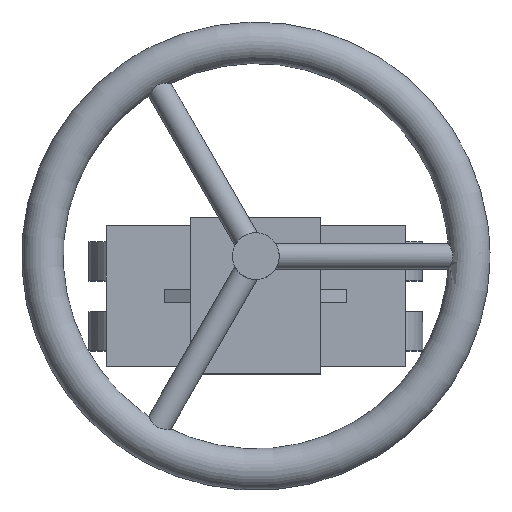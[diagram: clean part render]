
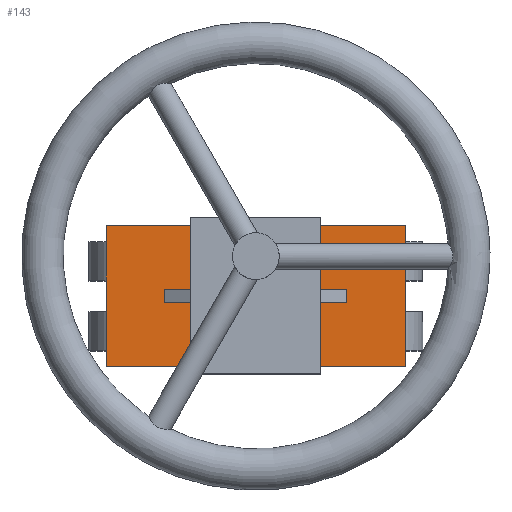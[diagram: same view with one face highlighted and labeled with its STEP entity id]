
A CAD part, top view. The second image highlights one B-rep face of the part: STEP entity #143.
In plain terms, the highlighted planar face has unit normal (0, 0, 1).
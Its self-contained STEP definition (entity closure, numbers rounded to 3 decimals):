
#143=ADVANCED_FACE('',(#1040,#1042,#1044),#1046,.T.);
#1040=FACE_BOUND('',#1041,.T.);
#1041=EDGE_LOOP('',(#1817,#1818,#1819,#1820,#1821,#1822,#1823,#1824));
#1042=FACE_BOUND('',#1043,.T.);
#1043=EDGE_LOOP('',(#1825,#1826,#1827,#1828));
#1044=FACE_BOUND('',#1045,.T.);
#1045=EDGE_LOOP('',(#1829));
#1046=PLANE('',#1047);
#1047=AXIS2_PLACEMENT_3D('',#1048,#1049,#1050);
#1048=CARTESIAN_POINT('',(0.,0.,90.));
#1049=DIRECTION('',(0.,0.,1.));
#1050=DIRECTION('',(1.,0.,0.));
#1817=ORIENTED_EDGE('',*,*,#2295,.F.);
#1818=ORIENTED_EDGE('',*,*,#2296,.T.);
#1819=ORIENTED_EDGE('',*,*,#2297,.T.);
#1820=ORIENTED_EDGE('',*,*,#2298,.T.);
#1821=ORIENTED_EDGE('',*,*,#2299,.F.);
#1822=ORIENTED_EDGE('',*,*,#2300,.T.);
#1823=ORIENTED_EDGE('',*,*,#2301,.T.);
#1824=ORIENTED_EDGE('',*,*,#2302,.T.);
#1825=ORIENTED_EDGE('',*,*,#2303,.F.);
#1826=ORIENTED_EDGE('',*,*,#2285,.F.);
#1827=ORIENTED_EDGE('',*,*,#2304,.F.);
#1828=ORIENTED_EDGE('',*,*,#2261,.F.);
#1829=ORIENTED_EDGE('',*,*,#2278,.F.);
#2261=EDGE_CURVE('',#2510,#2512,#2513,.T.);
#2278=EDGE_CURVE('',#2543,#2543,#2544,.F.);
#2285=EDGE_CURVE('',#2554,#2556,#2557,.F.);
#2295=EDGE_CURVE('',#2571,#2572,#2573,.T.);
#2296=EDGE_CURVE('',#2571,#2574,#2575,.T.);
#2297=EDGE_CURVE('',#2574,#2576,#2577,.T.);
#2298=EDGE_CURVE('',#2576,#2578,#2579,.T.);
#2299=EDGE_CURVE('',#2580,#2578,#2581,.T.);
#2300=EDGE_CURVE('',#2580,#2582,#2583,.T.);
#2301=EDGE_CURVE('',#2582,#2584,#2585,.T.);
#2302=EDGE_CURVE('',#2584,#2572,#2586,.T.);
#2303=EDGE_CURVE('',#2556,#2510,#2587,.T.);
#2304=EDGE_CURVE('',#2512,#2554,#2588,.T.);
#2510=VERTEX_POINT('',#2936);
#2512=VERTEX_POINT('',#2940);
#2513=LINE('',#2941,#2942);
#2543=VERTEX_POINT('',#3008);
#2544=CIRCLE('',#3009,9.);
#2554=VERTEX_POINT('',#3032);
#2556=VERTEX_POINT('',#3036);
#2557=LINE('',#3037,#3038);
#2571=VERTEX_POINT('',#3071);
#2572=VERTEX_POINT('',#3072);
#2573=LINE('',#3073,#3074);
#2574=VERTEX_POINT('',#3076);
#2575=LINE('',#3077,#3078);
#2576=VERTEX_POINT('',#3080);
#2577=LINE('',#3081,#3082);
#2578=VERTEX_POINT('',#3084);
#2579=LINE('',#3085,#3086);
#2580=VERTEX_POINT('',#3088);
#2581=LINE('',#3089,#3090);
#2582=VERTEX_POINT('',#3092);
#2583=LINE('',#3093,#3094);
#2584=VERTEX_POINT('',#3096);
#2585=LINE('',#3097,#3098);
#2586=LINE('',#3100,#3101);
#2587=LINE('',#3103,#3104);
#2588=LINE('',#3106,#3107);
#2936=CARTESIAN_POINT('',(-35.,-2.5,90.));
#2940=CARTESIAN_POINT('',(35.,-2.5,90.));
#2941=CARTESIAN_POINT('',(-35.,-2.5,90.));
#2942=VECTOR('',#2943,1.);
#2943=DIRECTION('',(1.,0.,0.));
#3008=CARTESIAN_POINT('',(0.,24.,90.));
#3009=AXIS2_PLACEMENT_3D('',#3010,#3011,#3012);
#3010=CARTESIAN_POINT('',(0.,15.,90.));
#3011=DIRECTION('',(-0.,-0.,-1.));
#3012=DIRECTION('',(0.,1.,0.));
#3032=CARTESIAN_POINT('',(35.,2.5,90.));
#3036=CARTESIAN_POINT('',(-35.,2.5,90.));
#3037=CARTESIAN_POINT('',(-35.,2.5,90.));
#3038=VECTOR('',#3039,1.);
#3039=DIRECTION('',(1.,0.,0.));
#3071=CARTESIAN_POINT('',(25.,-27.,90.));
#3072=CARTESIAN_POINT('',(-25.,-27.,90.));
#3073=CARTESIAN_POINT('',(25.,-27.,90.));
#3074=VECTOR('',#3075,1.);
#3075=DIRECTION('',(-1.,0.,0.));
#3076=CARTESIAN_POINT('',(57.5,-27.,90.));
#3077=CARTESIAN_POINT('',(25.,-27.,90.));
#3078=VECTOR('',#3079,1.);
#3079=DIRECTION('',(1.,0.,0.));
#3080=CARTESIAN_POINT('',(57.5,27.,90.));
#3081=CARTESIAN_POINT('',(57.5,-27.,90.));
#3082=VECTOR('',#3083,1.);
#3083=DIRECTION('',(0.,1.,0.));
#3084=CARTESIAN_POINT('',(25.,27.,90.));
#3085=CARTESIAN_POINT('',(57.5,27.,90.));
#3086=VECTOR('',#3087,1.);
#3087=DIRECTION('',(-1.,0.,0.));
#3088=CARTESIAN_POINT('',(-25.,27.,90.));
#3089=CARTESIAN_POINT('',(-25.,27.,90.));
#3090=VECTOR('',#3091,1.);
#3091=DIRECTION('',(1.,0.,0.));
#3092=CARTESIAN_POINT('',(-57.5,27.,90.));
#3093=CARTESIAN_POINT('',(-25.,27.,90.));
#3094=VECTOR('',#3095,1.);
#3095=DIRECTION('',(-1.,0.,0.));
#3096=CARTESIAN_POINT('',(-57.5,-27.,90.));
#3097=CARTESIAN_POINT('',(-57.5,27.,90.));
#3098=VECTOR('',#3099,1.);
#3099=DIRECTION('',(0.,-1.,0.));
#3100=CARTESIAN_POINT('',(-57.5,-27.,90.));
#3101=VECTOR('',#3102,1.);
#3102=DIRECTION('',(1.,0.,0.));
#3103=CARTESIAN_POINT('',(-35.,2.5,90.));
#3104=VECTOR('',#3105,1.);
#3105=DIRECTION('',(0.,-1.,0.));
#3106=CARTESIAN_POINT('',(35.,-2.5,90.));
#3107=VECTOR('',#3108,1.);
#3108=DIRECTION('',(0.,1.,0.));
